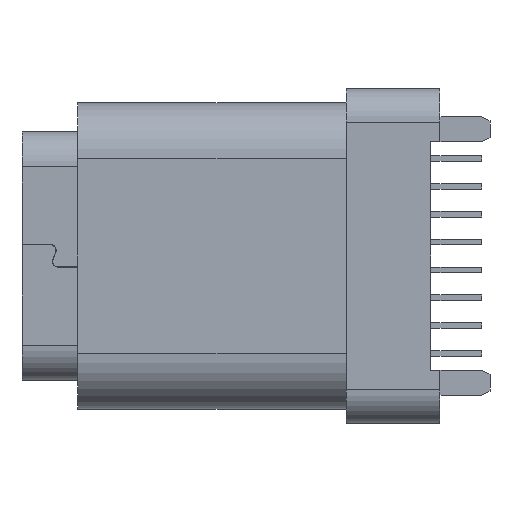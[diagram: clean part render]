
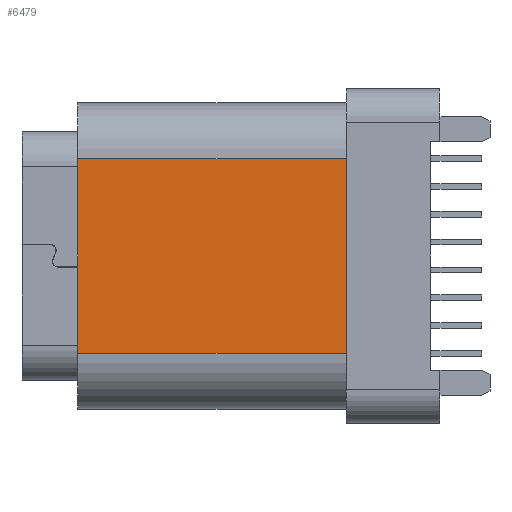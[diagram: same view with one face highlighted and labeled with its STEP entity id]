
A CAD part, front view. The second image highlights one B-rep face of the part: STEP entity #6479.
In plain terms, the highlighted planar face has unit normal (0, -1, 0).
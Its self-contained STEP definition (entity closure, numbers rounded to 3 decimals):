
#256 = LINE ( 'NONE', #9275, #28340 ) ;
#1358 = CARTESIAN_POINT ( 'NONE',  ( 11.64, 0.99, -2.5 ) ) ;
#1677 = ORIENTED_EDGE ( 'NONE', *, *, #21594, .T. ) ;
#3729 = PLANE ( 'NONE',  #3945 ) ;
#3945 = AXIS2_PLACEMENT_3D ( 'NONE', #28720, #10505, #6229 ) ;
#4250 = DIRECTION ( 'NONE',  ( 0., 0., 1. ) ) ;
#4625 = CARTESIAN_POINT ( 'NONE',  ( 11.64, 0.99, -2.5 ) ) ;
#4981 = VECTOR ( 'NONE', #17622, 1000. ) ;
#5531 = CARTESIAN_POINT ( 'NONE',  ( 2., 0.99, -2.5 ) ) ;
#5644 = FACE_OUTER_BOUND ( 'NONE', #25025, .T. ) ;
#6201 = DIRECTION ( 'NONE',  ( 0., 0., 1. ) ) ;
#6229 = DIRECTION ( 'NONE',  ( 0., 0., -1. ) ) ;
#6479 = ADVANCED_FACE ( 'NONE', ( #5644 ), #3729, .T. ) ;
#7341 = ORIENTED_EDGE ( 'NONE', *, *, #13752, .T. ) ;
#8635 = VERTEX_POINT ( 'NONE', #26536 ) ;
#8766 = VECTOR ( 'NONE', #4250, 1000. ) ;
#9140 = EDGE_CURVE ( 'NONE', #25496, #25200, #21618, .T. ) ;
#9172 = ORIENTED_EDGE ( 'NONE', *, *, #9532, .F. ) ;
#9275 = CARTESIAN_POINT ( 'NONE',  ( 2., 0.99, -9.5 ) ) ;
#9532 = EDGE_CURVE ( 'NONE', #8635, #25200, #10330, .T. ) ;
#10330 = LINE ( 'NONE', #26467, #16772 ) ;
#10505 = DIRECTION ( 'NONE',  ( 0., -1., 0. ) ) ;
#10654 = ORIENTED_EDGE ( 'NONE', *, *, #9140, .T. ) ;
#13752 = EDGE_CURVE ( 'NONE', #8635, #22554, #256, .T. ) ;
#16772 = VECTOR ( 'NONE', #6201, 1000. ) ;
#17622 = DIRECTION ( 'NONE',  ( -1., 0., 0. ) ) ;
#21594 = EDGE_CURVE ( 'NONE', #22554, #25496, #26576, .T. ) ;
#21618 = LINE ( 'NONE', #1358, #4981 ) ;
#21989 = CARTESIAN_POINT ( 'NONE',  ( 11.64, 0.99, -9.5 ) ) ;
#22554 = VERTEX_POINT ( 'NONE', #27447 ) ;
#25025 = EDGE_LOOP ( 'NONE', ( #9172, #7341, #1677, #10654 ) ) ;
#25200 = VERTEX_POINT ( 'NONE', #5531 ) ;
#25496 = VERTEX_POINT ( 'NONE', #4625 ) ;
#26467 = CARTESIAN_POINT ( 'NONE',  ( 2., 0.99, -9.5 ) ) ;
#26536 = CARTESIAN_POINT ( 'NONE',  ( 2., 0.99, -9.5 ) ) ;
#26576 = LINE ( 'NONE', #21989, #8766 ) ;
#27029 = DIRECTION ( 'NONE',  ( 1., 0., 0. ) ) ;
#27447 = CARTESIAN_POINT ( 'NONE',  ( 11.64, 0.99, -9.5 ) ) ;
#28340 = VECTOR ( 'NONE', #27029, 1000. ) ;
#28720 = CARTESIAN_POINT ( 'NONE',  ( 10.803, 0.99, -6.3 ) ) ;
